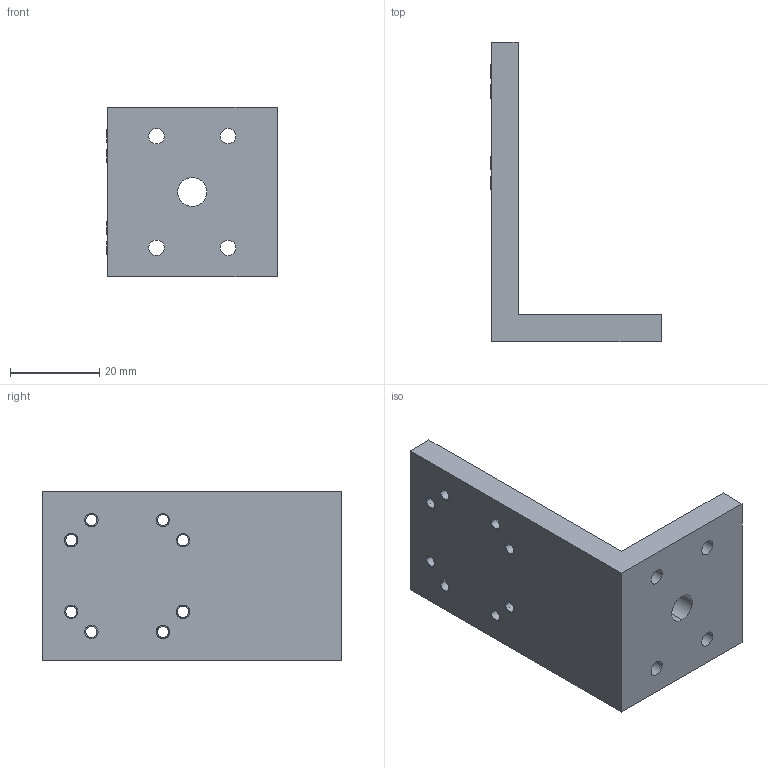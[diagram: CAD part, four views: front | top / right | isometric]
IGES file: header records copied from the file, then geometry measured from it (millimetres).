
Start section:  PTC IGES file: EA01SL.igs
Global section: file name: EA01SL.igs; native system: Pro/ENGINEER by Parametric Technology Corporation; preprocessor: 2006460; author: user; organization: Unknown; date: 20130717.170545; units: millimetre
Bounding box: 38.12 x 67 x 38 mm (x, y, z)
Surface area: 10383 mm2 (no closed solid volume)
Topology: 0 solids, 0 shells, 78 faces, 640 edges, 784 vertices
Faces by surface type: revolution 66, bspline 12
